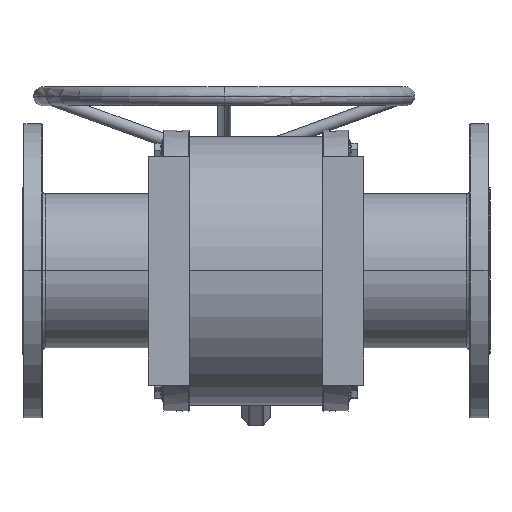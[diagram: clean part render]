
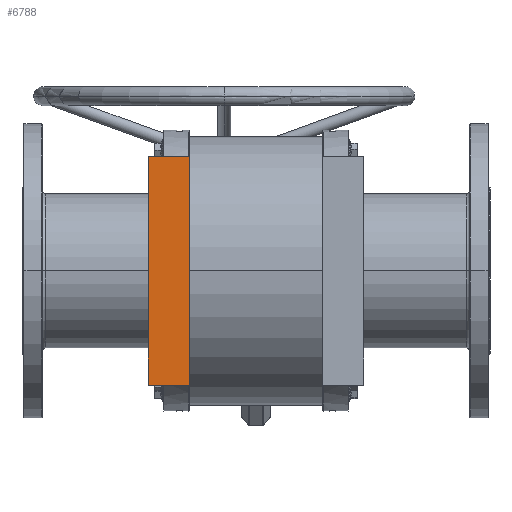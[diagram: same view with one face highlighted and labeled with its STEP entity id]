
A CAD part, front view. The second image highlights one B-rep face of the part: STEP entity #6788.
In plain terms, the highlighted planar face has unit normal (0, -1, 0).
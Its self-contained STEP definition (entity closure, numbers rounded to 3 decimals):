
#527 = ORIENTED_EDGE ( 'NONE', *, *, #2738, .F. ) ;
#1666 = FACE_OUTER_BOUND ( 'NONE', #20416, .T. ) ;
#1857 = EDGE_CURVE ( 'NONE', #7489, #3628, #13673, .T. ) ;
#1903 = CARTESIAN_POINT ( 'NONE',  ( -170., -400., -180. ) ) ;
#1994 = CARTESIAN_POINT ( 'NONE',  ( -105., -400., 180. ) ) ;
#2738 = EDGE_CURVE ( 'NONE', #11215, #7489, #14521, .T. ) ;
#3283 = VERTEX_POINT ( 'NONE', #10774 ) ;
#3628 = VERTEX_POINT ( 'NONE', #1994 ) ;
#4829 = VECTOR ( 'NONE', #5312, 1000. ) ;
#5312 = DIRECTION ( 'NONE',  ( 1., 0., 0. ) ) ;
#6788 = ADVANCED_FACE ( 'NONE', ( #1666 ), #10018, .F. ) ;
#6945 = VECTOR ( 'NONE', #22154, 1000. ) ;
#6982 = ORIENTED_EDGE ( 'NONE', *, *, #17606, .T. ) ;
#7383 = CARTESIAN_POINT ( 'NONE',  ( -145., -400., -180. ) ) ;
#7489 = VERTEX_POINT ( 'NONE', #20471 ) ;
#7963 = DIRECTION ( 'NONE',  ( 0., 0., 1. ) ) ;
#9794 = AXIS2_PLACEMENT_3D ( 'NONE', #18388, #26710, #7963 ) ;
#10018 = PLANE ( 'NONE',  #9794 ) ;
#10252 = DIRECTION ( 'NONE',  ( 0., 0., 1. ) ) ;
#10774 = CARTESIAN_POINT ( 'NONE',  ( -105., -400., -180. ) ) ;
#11215 = VERTEX_POINT ( 'NONE', #22362 ) ;
#12401 = VECTOR ( 'NONE', #18045, 1000. ) ;
#13673 = LINE ( 'NONE', #22015, #6945 ) ;
#14521 = LINE ( 'NONE', #1903, #15330 ) ;
#15330 = VECTOR ( 'NONE', #10252, 1000. ) ;
#17606 = EDGE_CURVE ( 'NONE', #11215, #3283, #17795, .T. ) ;
#17795 = LINE ( 'NONE', #7383, #4829 ) ;
#18045 = DIRECTION ( 'NONE',  ( 0., 0., 1. ) ) ;
#18388 = CARTESIAN_POINT ( 'NONE',  ( -145., -400., 0. ) ) ;
#20416 = EDGE_LOOP ( 'NONE', ( #6982, #25492, #25821, #527 ) ) ;
#20471 = CARTESIAN_POINT ( 'NONE',  ( -170., -400., 180. ) ) ;
#21999 = CARTESIAN_POINT ( 'NONE',  ( -105., -400., -180. ) ) ;
#22015 = CARTESIAN_POINT ( 'NONE',  ( -145., -400., 180. ) ) ;
#22154 = DIRECTION ( 'NONE',  ( 1., 0., 0. ) ) ;
#22362 = CARTESIAN_POINT ( 'NONE',  ( -170., -400., -180. ) ) ;
#24807 = EDGE_CURVE ( 'NONE', #3283, #3628, #26365, .T. ) ;
#25492 = ORIENTED_EDGE ( 'NONE', *, *, #24807, .T. ) ;
#25821 = ORIENTED_EDGE ( 'NONE', *, *, #1857, .F. ) ;
#26365 = LINE ( 'NONE', #21999, #12401 ) ;
#26710 = DIRECTION ( 'NONE',  ( 0., 1., 0. ) ) ;
